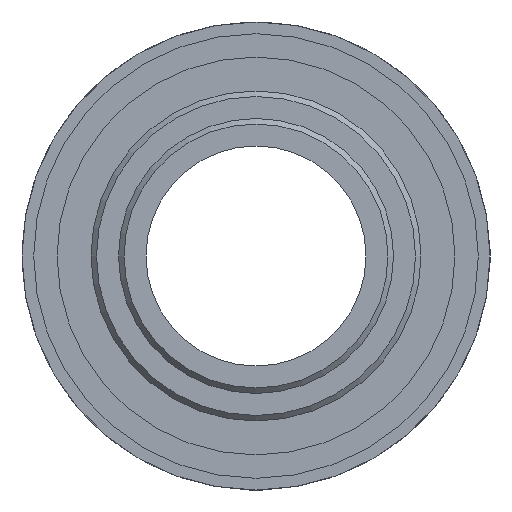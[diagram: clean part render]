
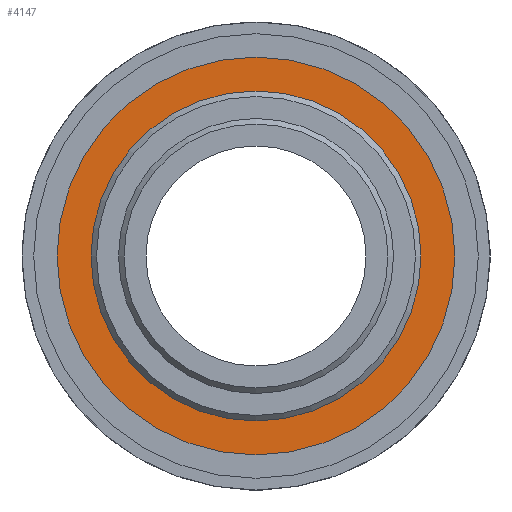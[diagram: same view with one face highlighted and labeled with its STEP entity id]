
A CAD part, left-side view. The second image highlights one B-rep face of the part: STEP entity #4147.
In plain terms, the highlighted planar face has unit normal (-1, 0, 0).
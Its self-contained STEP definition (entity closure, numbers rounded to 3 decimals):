
#290=FACE_BOUND('',#857,.T.);
#312=CIRCLE('',#4440,19.125);
#564=FACE_OUTER_BOUND('',#856,.T.);
#856=EDGE_LOOP('',(#2781));
#857=EDGE_LOOP('',(#2782,#2783,#2784,#2785,#2786,#2787,#2788,#2789,#2790,
#2791,#2792,#2793));
#1132=LINE('',#6226,#1408);
#1136=LINE('',#6234,#1412);
#1139=LINE('',#6240,#1415);
#1142=LINE('',#6246,#1418);
#1145=LINE('',#6252,#1421);
#1148=LINE('',#6258,#1424);
#1151=LINE('',#6264,#1427);
#1154=LINE('',#6270,#1430);
#1158=LINE('',#6278,#1434);
#1162=LINE('',#6287,#1438);
#1164=LINE('',#6290,#1440);
#1167=LINE('',#6294,#1443);
#1408=VECTOR('',#4926,0.458);
#1412=VECTOR('',#4932,12.692);
#1415=VECTOR('',#4937,0.458);
#1418=VECTOR('',#4942,12.692);
#1421=VECTOR('',#4947,0.458);
#1424=VECTOR('',#4952,12.692);
#1427=VECTOR('',#4957,0.458);
#1430=VECTOR('',#4962,12.692);
#1434=VECTOR('',#4968,0.458);
#1438=VECTOR('',#4974,0.458);
#1440=VECTOR('',#4978,12.692);
#1443=VECTOR('',#4983,12.692);
#1684=VERTEX_POINT('',#6224);
#1685=VERTEX_POINT('',#6225);
#1688=VERTEX_POINT('',#6233);
#1690=VERTEX_POINT('',#6239);
#1692=VERTEX_POINT('',#6245);
#1694=VERTEX_POINT('',#6251);
#1696=VERTEX_POINT('',#6257);
#1698=VERTEX_POINT('',#6263);
#1700=VERTEX_POINT('',#6269);
#1703=VERTEX_POINT('',#6277);
#1706=VERTEX_POINT('',#6284);
#1707=VERTEX_POINT('',#6286);
#1716=VERTEX_POINT('',#6320);
#2064=EDGE_CURVE('',#1684,#1685,#1132,.F.);
#2068=EDGE_CURVE('',#1688,#1685,#1136,.T.);
#2071=EDGE_CURVE('',#1688,#1690,#1139,.F.);
#2074=EDGE_CURVE('',#1692,#1690,#1142,.T.);
#2077=EDGE_CURVE('',#1692,#1694,#1145,.F.);
#2080=EDGE_CURVE('',#1696,#1694,#1148,.T.);
#2083=EDGE_CURVE('',#1696,#1698,#1151,.F.);
#2086=EDGE_CURVE('',#1700,#1698,#1154,.T.);
#2090=EDGE_CURVE('',#1700,#1703,#1158,.F.);
#2094=EDGE_CURVE('',#1706,#1707,#1162,.F.);
#2096=EDGE_CURVE('',#1706,#1703,#1164,.T.);
#2099=EDGE_CURVE('',#1684,#1707,#1167,.T.);
#2108=EDGE_CURVE('',#1716,#1716,#312,.T.);
#2781=ORIENTED_EDGE('',*,*,#2108,.F.);
#2782=ORIENTED_EDGE('',*,*,#2086,.T.);
#2783=ORIENTED_EDGE('',*,*,#2083,.F.);
#2784=ORIENTED_EDGE('',*,*,#2080,.T.);
#2785=ORIENTED_EDGE('',*,*,#2077,.F.);
#2786=ORIENTED_EDGE('',*,*,#2074,.T.);
#2787=ORIENTED_EDGE('',*,*,#2071,.F.);
#2788=ORIENTED_EDGE('',*,*,#2068,.T.);
#2789=ORIENTED_EDGE('',*,*,#2064,.F.);
#2790=ORIENTED_EDGE('',*,*,#2099,.T.);
#2791=ORIENTED_EDGE('',*,*,#2094,.F.);
#2792=ORIENTED_EDGE('',*,*,#2096,.T.);
#2793=ORIENTED_EDGE('',*,*,#2090,.F.);
#3999=PLANE('',#4442);
#4147=ADVANCED_FACE('',(#564,#290),#3999,.F.);
#4440=AXIS2_PLACEMENT_3D('',#6321,#5018,#5019);
#4442=AXIS2_PLACEMENT_3D('',#6324,#5022,#5023);
#4926=DIRECTION('',(0.,0.866,0.5));
#4932=DIRECTION('',(0.,1.,0.));
#4937=DIRECTION('',(0.,0.866,-0.5));
#4942=DIRECTION('',(0.,0.5,-0.866));
#4947=DIRECTION('',(0.,0.,-1.));
#4952=DIRECTION('',(0.,-0.5,-0.866));
#4957=DIRECTION('',(0.,-0.866,-0.5));
#4962=DIRECTION('',(0.,-1.,0.));
#4968=DIRECTION('',(0.,-0.866,0.5));
#4974=DIRECTION('',(0.,0.,1.));
#4978=DIRECTION('',(0.,-0.5,0.866));
#4983=DIRECTION('',(0.,0.5,0.866));
#5018=DIRECTION('center_axis',(1.,0.,0.));
#5019=DIRECTION('ref_axis',(0.,0.,-1.));
#5022=DIRECTION('center_axis',(1.,0.,0.));
#5023=DIRECTION('ref_axis',(0.,0.,-1.));
#6224=CARTESIAN_POINT('',(4.115,6.742,-11.22));
#6225=CARTESIAN_POINT('',(4.115,6.346,-11.449));
#6226=CARTESIAN_POINT('',(4.115,6.544,-11.335));
#6233=CARTESIAN_POINT('',(4.115,-6.346,-11.449));
#6234=CARTESIAN_POINT('',(4.115,-3.305,-11.449));
#6239=CARTESIAN_POINT('',(4.115,-6.742,-11.22));
#6240=CARTESIAN_POINT('',(4.115,-6.544,-11.335));
#6245=CARTESIAN_POINT('',(4.115,-13.088,-0.229));
#6246=CARTESIAN_POINT('',(4.115,-11.568,-2.862));
#6251=CARTESIAN_POINT('',(4.115,-13.088,0.229));
#6252=CARTESIAN_POINT('',(4.115,-13.088,0.));
#6257=CARTESIAN_POINT('',(4.115,-6.742,11.22));
#6258=CARTESIAN_POINT('',(4.115,-8.263,8.587));
#6263=CARTESIAN_POINT('',(4.115,-6.346,11.449));
#6264=CARTESIAN_POINT('',(4.115,-6.544,11.335));
#6269=CARTESIAN_POINT('',(4.115,6.346,11.449));
#6270=CARTESIAN_POINT('',(4.115,3.305,11.449));
#6277=CARTESIAN_POINT('',(4.115,6.742,11.22));
#6278=CARTESIAN_POINT('',(4.115,6.544,11.335));
#6284=CARTESIAN_POINT('',(4.115,13.088,0.229));
#6286=CARTESIAN_POINT('',(4.115,13.088,-0.229));
#6287=CARTESIAN_POINT('',(4.115,13.088,0.));
#6290=CARTESIAN_POINT('',(4.115,11.568,2.862));
#6294=CARTESIAN_POINT('',(4.115,8.263,-8.587));
#6320=CARTESIAN_POINT('',(4.115,0.,19.125));
#6321=CARTESIAN_POINT('Origin',(4.115,0.,0.));
#6324=CARTESIAN_POINT('Origin',(4.115,0.,0.));
